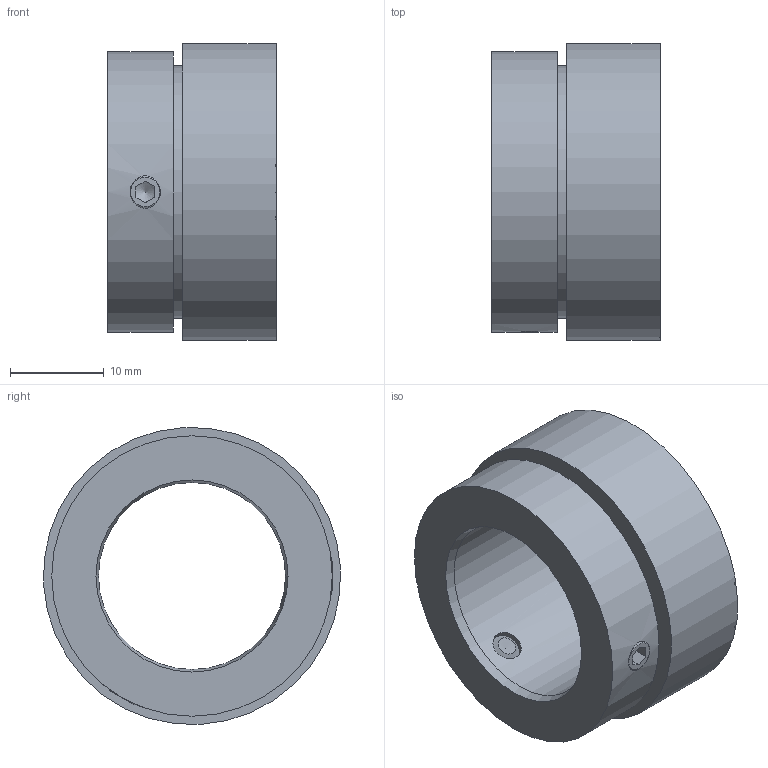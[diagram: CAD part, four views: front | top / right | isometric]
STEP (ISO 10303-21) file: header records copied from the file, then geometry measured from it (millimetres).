
FILE_DESCRIPTION((''),'2;1');
FILE_NAME('K:\Daten\20-50-20.stp','2014-05-16T14:56:56',('kamp'),(''),'Autodesk Inventor 2008','Autodesk Inventor 2008','');
FILE_SCHEMA(('AUTOMOTIVE_DESIGN { 1 0 10303 214 1 1 1 1 }'));
Length unit declared in the file: millimetre
Products named in the file (1): Bauteil21
Bounding box: 18 x 31.75 x 31.75 mm (x, y, z)
Volume: 7773.5 mm3; surface area: 4121.2 mm2
Topology: 1 solids, 1 shells, 96 faces, 253 edges, 169 vertices
Faces by surface type: plane 53, bspline 25, cone 10, cylinder 8
Full cylindrical faces by diameter (mm): 20 x1, 27 x1, 30 x1, 31.8 x1
Entity records: 3267 total; most frequent: CARTESIAN_POINT 1063, ORIENTED_EDGE 452, DIRECTION 340, EDGE_CURVE 226, VERTEX_POINT 158, VECTOR 140, LINE 140, EDGE_LOOP 124
